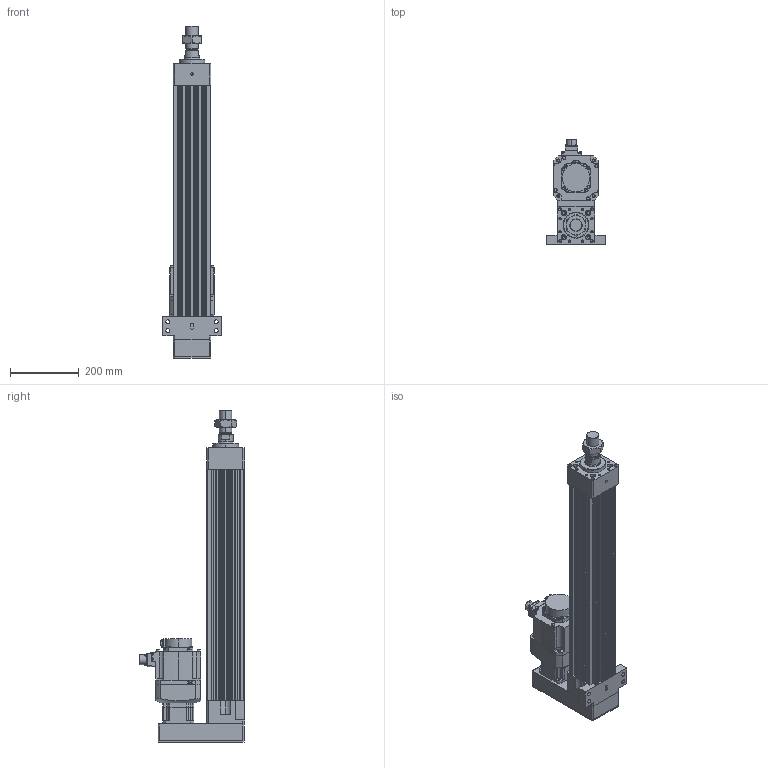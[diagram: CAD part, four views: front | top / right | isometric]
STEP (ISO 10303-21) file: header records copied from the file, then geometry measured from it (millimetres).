
FILE_DESCRIPTION (( 'STEP AP203' ), '1' );
FILE_NAME ('HES110NS(HS)-P500-W010G00-M-FFC.STEP', '2023-01-26T10:19:09', ( 'tms' ), ( '' ), 'SwSTEP 2.0', 'SolidWorks 2013', '' );
FILE_SCHEMA (( 'CONFIG_CONTROL_DESIGN' ));
Length unit declared in the file: millimetre
Products named in the file (8): HES110NS(HS)-P500-W010G00-M-FFC; HG-SR102; AB090-003[HG-SR102B]; AB0901; HES110 ROD M ST500; M36X1.5P; HES110-P500-G090-FFC; P0401301004
Assembly tree (7 placements, depth 3):
  HES110NS(HS)-P500-W010G00-M-FFC
    HES110-P500-G090-FFC
    HES110 ROD M ST500
    M36X1.5P
    AB090-003[HG-SR102B]
      AB0901
      P0401301004
    HG-SR102
Bounding box: 170 x 304.99 x 963 mm (x, y, z)
Volume: 8650305.5 mm3; surface area: 1127168.8 mm2
Topology: 4 solids, 11 shells, 1111 faces, 2835 edges, 1826 vertices
Faces by surface type: cylinder 519, plane 486, cone 94, bspline 8, torus 4
Entity records: 35472 total; most frequent: CARTESIAN_POINT 6938, DIRECTION 6110, ORIENTED_EDGE 5574, EDGE_CURVE 2797, AXIS2_PLACEMENT_3D 2269, VERTEX_POINT 1826, VECTOR 1572, LINE 1572
